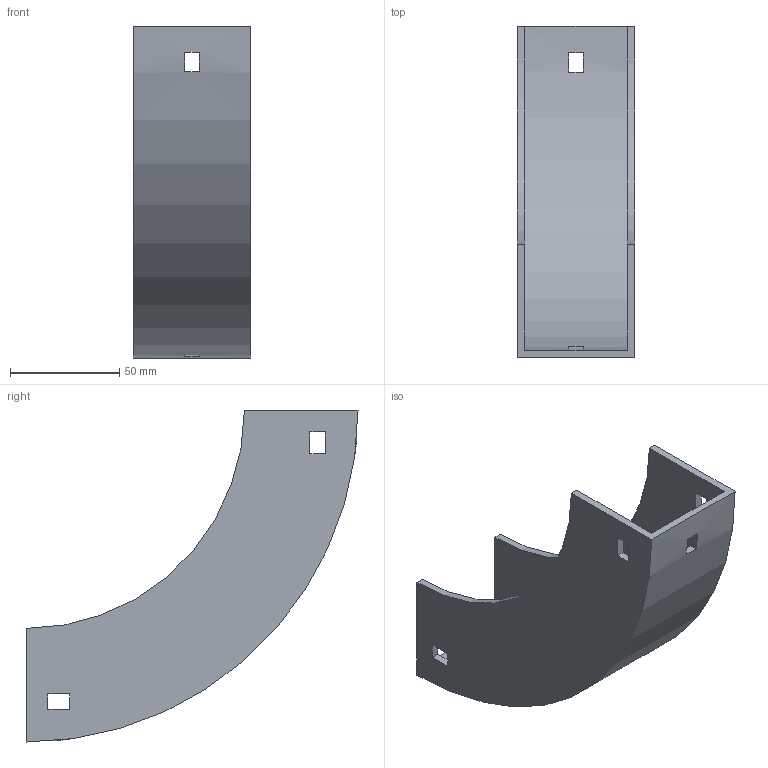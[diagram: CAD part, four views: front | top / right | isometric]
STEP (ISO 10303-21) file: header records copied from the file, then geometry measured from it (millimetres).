
FILE_DESCRIPTION (( 'STEP AP214' ), '1' );
FILE_NAME ('30B1B050.step', '2025-02-21T09:49:20', ( '' ), ( '' ), 'SwSTEP 2.0', 'SolidWorks 2023', '' );
FILE_SCHEMA (( 'AUTOMOTIVE_DESIGN' ));
Length unit declared in the file: millimetre
Products named in the file (1): 30B1B050
Bounding box: 54 x 152 x 152 mm (x, y, z)
Volume: 109474.9 mm3; surface area: 65427.3 mm2
Topology: 1 solids, 1 shells, 34 faces, 96 edges, 64 vertices
Faces by surface type: plane 30, cylinder 4
Entity records: 1143 total; most frequent: CARTESIAN_POINT 195, ORIENTED_EDGE 192, DIRECTION 182, EDGE_CURVE 96, LINE 80, VECTOR 80, VERTEX_POINT 64, AXIS2_PLACEMENT_3D 51
